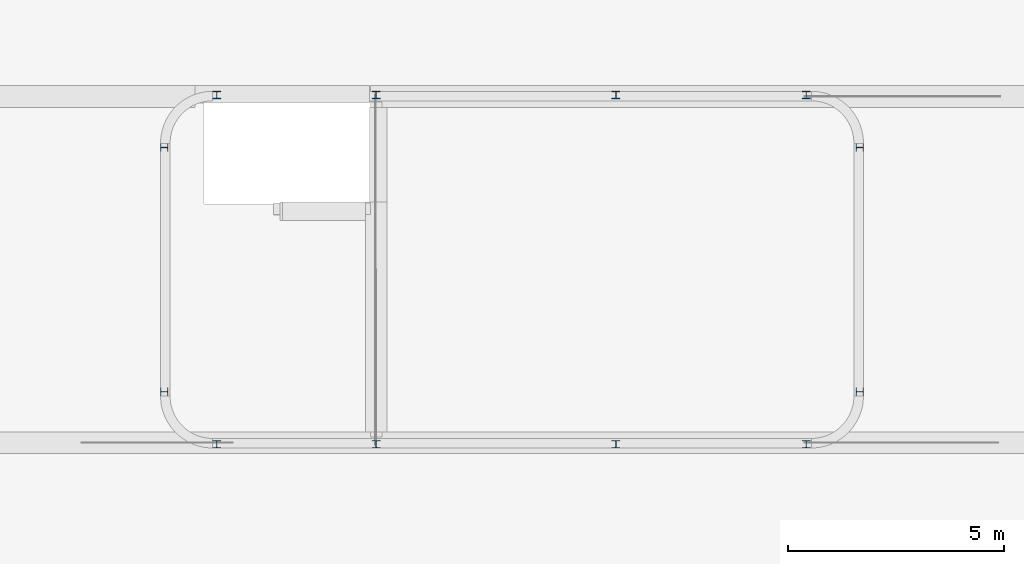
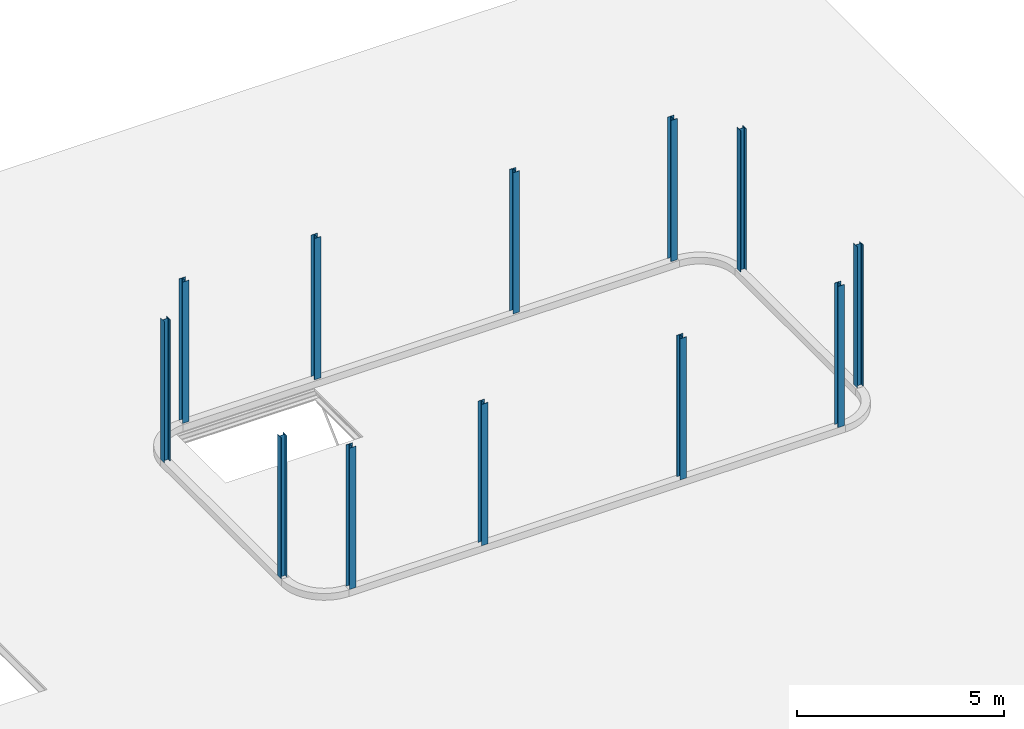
# One storey, part 5 of 11: 12 columns.
"""IFC2X3 building model written with IfcOpenShell, lengths in millimetres."""

from ifc_helpers import new_model, entity, si_unit, converted_unit, derived_unit, direction, frame, frame_2d, origin, origin_2d_with_axis, place, context, subcontext, project, spatial, i_section, extrude, source, transform, mapped, material, type_object, type_shapes, element, save


model = new_model("IFC2X3")

# Units and contexts
model_context = context("Model", 3, precision=0.01, world=origin(), true_north=direction((6.123031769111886e-17, 1.0)))
body_context = subcontext(model_context, "Body", "Model", "MODEL_VIEW")
ifc_project = project(units=[si_unit("LENGTHUNIT", "METRE", prefix="MILLI"), si_unit("AREAUNIT", "SQUARE_METRE"), si_unit("VOLUMEUNIT", "CUBIC_METRE"), derived_unit("MASSDENSITYUNIT", [(si_unit("MASSUNIT", "GRAM", prefix="KILO"), 1), (si_unit("LENGTHUNIT", "METRE"), -3)]), si_unit("MASSUNIT", "GRAM", prefix="KILO"), converted_unit("PLANEANGLEUNIT", "DEGREE", entity("IfcPlaneAngleMeasure", 0.017453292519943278), si_unit("PLANEANGLEUNIT", "RADIAN"), dimensions=[0, 0, 0, 0, 0, 0, 0])], contexts=[model_context])

# Site, building, storey
site_placement = place(None, origin())
site = spatial("IfcSite", under=ifc_project, at=site_placement, Name="Default", CompositionType="ELEMENT")
building_placement = place(site_placement, origin())
building = spatial("IfcBuilding", under=site, at=building_placement, Name="AT constructie", CompositionType="ELEMENT")
storey_placement = place(building_placement, frame((0.0, 0.0, 7728.0)))
storey = spatial("IfcBuildingStorey", under=building, at=storey_placement, Name="02 tweede verdieping", CompositionType="ELEMENT", Elevation=7728.0)

# Columns
ifc_material = material(Name="h2_staal_S355")
column_type_1 = type_object("IfcColumnType", Name="kolom_gen_HEA180", PredefinedType="COLUMN", material=ifc_material)
shared_shape_1 = source(origin(), body_context, "Body", "SweptSolid", [
    extrude(i_section(OverallWidth=179.99999999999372, OverallDepth=171.0000000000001, WebThickness=5.999999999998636, FlangeThickness=9.49999999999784, FilletRadius=15.000000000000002, at=frame_2d((0.0, -6.494360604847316e-12), x_axis=(1.0, 0.0))), frame((85726.87463111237, 31305.543508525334, 7878.0)), (0.0, 0.0, 1.0), 4165.0),
])
type_shapes(column_type_1, [shared_shape_1])
column_1_placement = place(storey_placement, frame((0.0, 0.0, -7728.0)))
element("IfcColumn", 1, at=column_1_placement, inside=storey, type_object=column_type_1, material=ifc_material, Name="NLRS_28_SC_TLB_kolom HEA_gen_AT:kolom_gen_HEA180", ObjectType="NLRS_28_SC_TLB_kolom HEA_gen_AT:kolom_gen_HEA180", context=body_context, shape_type="MappedRepresentation", body=[
    mapped(shared_shape_1, transform((0.0, 0.0, 0.0), scale=1.0)),
])
column_type_2 = type_object("IfcColumnType", Name="kolom_gen_HEA180", PredefinedType="COLUMN", material=ifc_material)
shared_shape_2 = source(origin(), body_context, "Body", "SweptSolid", [
    extrude(i_section(OverallWidth=179.99999999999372, OverallDepth=171.0000000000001, WebThickness=5.999999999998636, FlangeThickness=9.49999999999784, FilletRadius=15.000000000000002, at=frame_2d((-1.7330137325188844e-11, -2.1671553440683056e-12), x_axis=(1.0, 0.0))), frame((99346.87463111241, 31305.543508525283, 7878.0)), (0.0, 0.0, 1.0), 4165.0),
])
type_shapes(column_type_2, [shared_shape_2])
column_2_placement = place(storey_placement, frame((0.0, 0.0, -7728.0)))
element("IfcColumn", 2, at=column_2_placement, inside=storey, type_object=column_type_2, material=ifc_material, Name="NLRS_28_SC_TLB_kolom HEA_gen_AT:kolom_gen_HEA180", ObjectType="NLRS_28_SC_TLB_kolom HEA_gen_AT:kolom_gen_HEA180", context=body_context, shape_type="MappedRepresentation", body=[
    mapped(shared_shape_2, transform((0.0, 0.0, 0.0), scale=1.0)),
])
column_type_3 = type_object("IfcColumnType", Name="kolom_gen_HEA180", PredefinedType="COLUMN", material=ifc_material)
shared_shape_3 = source(origin(), body_context, "Body", "SweptSolid", [
    extrude(i_section(OverallWidth=179.99999999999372, OverallDepth=171.0000000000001, WebThickness=5.999999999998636, FlangeThickness=9.49999999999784, FilletRadius=15.000000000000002, at=frame_2d((-1.7330137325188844e-11, -2.1671553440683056e-12), x_axis=(1.0, 0.0))), frame((94946.87463111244, 31305.543508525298, 7878.0)), (0.0, 0.0, 1.0), 4165.0),
])
type_shapes(column_type_3, [shared_shape_3])
column_3_placement = place(storey_placement, frame((0.0, 0.0, -7728.0)))
element("IfcColumn", 3, at=column_3_placement, inside=storey, type_object=column_type_3, material=ifc_material, Name="NLRS_28_SC_TLB_kolom HEA_gen_AT:kolom_gen_HEA180", ObjectType="NLRS_28_SC_TLB_kolom HEA_gen_AT:kolom_gen_HEA180", context=body_context, shape_type="MappedRepresentation", body=[
    mapped(shared_shape_3, transform((0.0, 0.0, 0.0), scale=1.0)),
])
column_type_4 = type_object("IfcColumnType", Name="kolom_gen_HEA180", PredefinedType="COLUMN", material=ifc_material)
shared_shape_4 = source(origin(), body_context, "Body", "SweptSolid", [
    extrude(i_section(OverallWidth=179.99999999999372, OverallDepth=171.0000000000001, WebThickness=5.999999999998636, FlangeThickness=9.49999999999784, FilletRadius=15.000000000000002, at=frame_2d((0.0, 2.1671553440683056e-12), x_axis=(1.0, 0.0))), frame((85726.87463111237, 23236.543549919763, 7878.0)), (0.0, 0.0, 1.0), 4165.0),
])
type_shapes(column_type_4, [shared_shape_4])
column_4_placement = place(storey_placement, frame((0.0, 0.0, -7728.0)))
element("IfcColumn", 4, at=column_4_placement, inside=storey, type_object=column_type_4, material=ifc_material, Name="NLRS_28_SC_TLB_kolom HEA_gen_AT:kolom_gen_HEA180", ObjectType="NLRS_28_SC_TLB_kolom HEA_gen_AT:kolom_gen_HEA180", context=body_context, shape_type="MappedRepresentation", body=[
    mapped(shared_shape_4, transform((0.0, 0.0, 0.0), scale=1.0)),
])
column_type_5 = type_object("IfcColumnType", Name="kolom_gen_HEA180", PredefinedType="COLUMN", material=ifc_material)
shared_shape_5 = source(origin(), body_context, "Body", "SweptSolid", [
    extrude(i_section(OverallWidth=179.99999999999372, OverallDepth=171.0000000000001, WebThickness=5.999999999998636, FlangeThickness=9.49999999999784, FilletRadius=15.000000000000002, at=frame_2d((1.7330137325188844e-11, -2.1671553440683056e-12), x_axis=(1.0, 0.0))), frame((99346.87463111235, 23236.543549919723, 7878.0)), (0.0, 0.0, 1.0), 4165.0),
])
type_shapes(column_type_5, [shared_shape_5])
column_5_placement = place(storey_placement, frame((0.0, 0.0, -7728.0)))
element("IfcColumn", 5, at=column_5_placement, inside=storey, type_object=column_type_5, material=ifc_material, Name="NLRS_28_SC_TLB_kolom HEA_gen_AT:kolom_gen_HEA180", ObjectType="NLRS_28_SC_TLB_kolom HEA_gen_AT:kolom_gen_HEA180", context=body_context, shape_type="MappedRepresentation", body=[
    mapped(shared_shape_5, transform((0.0, 0.0, 0.0), scale=1.0)),
])
column_type_6 = type_object("IfcColumnType", Name="kolom_gen_HEA180", PredefinedType="COLUMN", material=ifc_material)
shared_shape_6 = source(origin(), body_context, "Body", "SweptSolid", [
    extrude(i_section(OverallWidth=179.99999999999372, OverallDepth=171.0000000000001, WebThickness=5.999999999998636, FlangeThickness=9.49999999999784, FilletRadius=15.000000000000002, at=frame_2d((0.0, -2.1671553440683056e-12), x_axis=(1.0, 0.0))), frame((94946.87463111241, 23236.543549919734, 7878.0)), (0.0, 0.0, 1.0), 4165.0),
])
type_shapes(column_type_6, [shared_shape_6])
column_6_placement = place(storey_placement, frame((0.0, 0.0, -7728.0)))
element("IfcColumn", 6, at=column_6_placement, inside=storey, type_object=column_type_6, material=ifc_material, Name="NLRS_28_SC_TLB_kolom HEA_gen_AT:kolom_gen_HEA180", ObjectType="NLRS_28_SC_TLB_kolom HEA_gen_AT:kolom_gen_HEA180", context=body_context, shape_type="MappedRepresentation", body=[
    mapped(shared_shape_6, transform((0.0, 0.0, 0.0), scale=1.0)),
])
column_type_7 = type_object("IfcColumnType", Name="kolom_gen_HEA180", PredefinedType="COLUMN", material=ifc_material)
shared_shape_7 = source(origin(), body_context, "Body", "SweptSolid", [
    extrude(i_section(OverallWidth=179.99999999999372, OverallDepth=171.0000000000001, WebThickness=5.999999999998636, FlangeThickness=9.49999999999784, FilletRadius=15.000000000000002, at=frame_2d((0.0, -2.1671553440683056e-12), x_axis=(1.0, 0.0))), frame((89407.37463111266, 23236.54354991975, 7878.0)), (0.0, 0.0, 1.0), 4165.0),
])
type_shapes(column_type_7, [shared_shape_7])
column_7_placement = place(storey_placement, frame((0.0, 0.0, -7728.0)))
element("IfcColumn", 7, at=column_7_placement, inside=storey, type_object=column_type_7, material=ifc_material, Name="NLRS_28_SC_TLB_kolom HEA_gen_AT:kolom_gen_HEA180", ObjectType="NLRS_28_SC_TLB_kolom HEA_gen_AT:kolom_gen_HEA180", context=body_context, shape_type="MappedRepresentation", body=[
    mapped(shared_shape_7, transform((0.0, 0.0, 0.0), scale=1.0)),
])
column_type_8 = type_object("IfcColumnType", Name="kolom_gen_HEA180", PredefinedType="COLUMN", material=ifc_material)
shared_shape_8 = source(origin(), body_context, "Body", "SweptSolid", [
    extrude(i_section(OverallWidth=179.99999999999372, OverallDepth=171.0000000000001, WebThickness=5.999999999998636, FlangeThickness=9.49999999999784, FilletRadius=15.000000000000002, at=frame_2d((0.0, 2.1671553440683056e-12), x_axis=(1.0, 0.0))), frame((89407.37463111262, 31305.543508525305, 7878.0)), (0.0, 0.0, 1.0), 4165.0),
])
type_shapes(column_type_8, [shared_shape_8])
column_8_placement = place(storey_placement, frame((0.0, 0.0, -7728.0)))
element("IfcColumn", 8, at=column_8_placement, inside=storey, type_object=column_type_8, material=ifc_material, Name="NLRS_28_SC_TLB_kolom HEA_gen_AT:kolom_gen_HEA180", ObjectType="NLRS_28_SC_TLB_kolom HEA_gen_AT:kolom_gen_HEA180", context=body_context, shape_type="MappedRepresentation", body=[
    mapped(shared_shape_8, transform((0.0, 0.0, 0.0), scale=1.0)),
])
column_type_9 = type_object("IfcColumnType", Name="kolom_gen_HEA180", PredefinedType="COLUMN", material=ifc_material)
shared_shape_9 = source(origin(), body_context, "Body", "SweptSolid", [
    extrude(i_section(OverallWidth=180.0000000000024, OverallDepth=171.0000000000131, WebThickness=5.999999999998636, FlangeThickness=9.500000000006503, FilletRadius=15.000000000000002, at=origin_2d_with_axis()), frame((100581.3746311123, 30091.043508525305, 7878.0), z_axis=(0.0, 0.0, 1.0), x_axis=(0.0, -1.0, 0.0)), (0.0, 0.0, 1.0), 4165.0),
])
type_shapes(column_type_9, [shared_shape_9])
column_9_placement = place(storey_placement, frame((0.0, 0.0, -7728.0)))
element("IfcColumn", 9, at=column_9_placement, inside=storey, type_object=column_type_9, material=ifc_material, Name="NLRS_28_SC_TLB_kolom HEA_gen_AT:kolom_gen_HEA180", ObjectType="NLRS_28_SC_TLB_kolom HEA_gen_AT:kolom_gen_HEA180", context=body_context, shape_type="MappedRepresentation", body=[
    mapped(shared_shape_9, transform((0.0, 0.0, 0.0), scale=1.0)),
])
column_type_10 = type_object("IfcColumnType", Name="kolom_gen_HEA180", PredefinedType="COLUMN", material=ifc_material)
shared_shape_10 = source(origin(), body_context, "Body", "SweptSolid", [
    extrude(i_section(OverallWidth=180.0000000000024, OverallDepth=171.0000000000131, WebThickness=5.999999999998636, FlangeThickness=9.500000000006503, FilletRadius=15.000000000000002, at=origin_2d_with_axis()), frame((100581.3746311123, 24451.0435085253, 7878.0), z_axis=(0.0, 0.0, 1.0), x_axis=(0.0, -1.0, 0.0)), (0.0, 0.0, 1.0), 4165.0),
])
type_shapes(column_type_10, [shared_shape_10])
column_10_placement = place(storey_placement, frame((0.0, 0.0, -7728.0)))
element("IfcColumn", 10, at=column_10_placement, inside=storey, type_object=column_type_10, material=ifc_material, Name="NLRS_28_SC_TLB_kolom HEA_gen_AT:kolom_gen_HEA180", ObjectType="NLRS_28_SC_TLB_kolom HEA_gen_AT:kolom_gen_HEA180", context=body_context, shape_type="MappedRepresentation", body=[
    mapped(shared_shape_10, transform((0.0, 0.0, 0.0), scale=1.0)),
])
column_type_11 = type_object("IfcColumnType", Name="kolom_gen_HEA180", PredefinedType="COLUMN", material=ifc_material)
shared_shape_11 = source(origin(), body_context, "Body", "SweptSolid", [
    extrude(i_section(OverallWidth=180.0000000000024, OverallDepth=171.0000000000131, WebThickness=5.999999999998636, FlangeThickness=9.500000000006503, FilletRadius=15.000000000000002, at=frame_2d((0.0, -1.7323031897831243e-11), x_axis=(1.0, 0.0))), frame((84512.37463111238, 30091.043508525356, 7878.0), z_axis=(0.0, 0.0, 1.0), x_axis=(0.0, -1.0, 0.0)), (0.0, 0.0, 1.0), 4165.0),
])
type_shapes(column_type_11, [shared_shape_11])
column_11_placement = place(storey_placement, frame((0.0, 0.0, -7728.0)))
element("IfcColumn", 11, at=column_11_placement, inside=storey, type_object=column_type_11, material=ifc_material, Name="NLRS_28_SC_TLB_kolom HEA_gen_AT:kolom_gen_HEA180", ObjectType="NLRS_28_SC_TLB_kolom HEA_gen_AT:kolom_gen_HEA180", context=body_context, shape_type="MappedRepresentation", body=[
    mapped(shared_shape_11, transform((0.0, 0.0, 0.0), scale=1.0)),
])
column_type_12 = type_object("IfcColumnType", Name="kolom_gen_HEA180", PredefinedType="COLUMN", material=ifc_material)
shared_shape_12 = source(origin(), body_context, "Body", "SweptSolid", [
    extrude(i_section(OverallWidth=180.0000000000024, OverallDepth=171.0000000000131, WebThickness=5.999999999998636, FlangeThickness=9.500000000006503, FilletRadius=15.000000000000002, at=frame_2d((0.0, -1.7323031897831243e-11), x_axis=(1.0, 0.0))), frame((84512.37463111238, 24451.043508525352, 7878.0), z_axis=(0.0, 0.0, 1.0), x_axis=(0.0, -1.0, 0.0)), (0.0, 0.0, 1.0), 4165.0),
])
type_shapes(column_type_12, [shared_shape_12])
column_12_placement = place(storey_placement, frame((0.0, 0.0, -7728.0)))
element("IfcColumn", 12, at=column_12_placement, inside=storey, type_object=column_type_12, material=ifc_material, Name="NLRS_28_SC_TLB_kolom HEA_gen_AT:kolom_gen_HEA180", ObjectType="NLRS_28_SC_TLB_kolom HEA_gen_AT:kolom_gen_HEA180", context=body_context, shape_type="MappedRepresentation", body=[
    mapped(shared_shape_12, transform((0.0, 0.0, 0.0), scale=1.0)),
])

save(model, "model.ifc")
